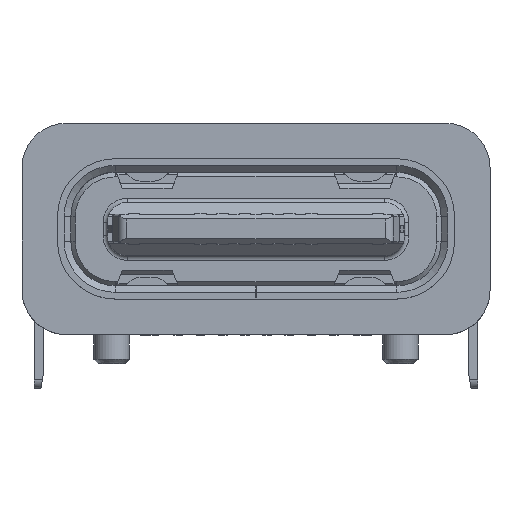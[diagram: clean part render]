
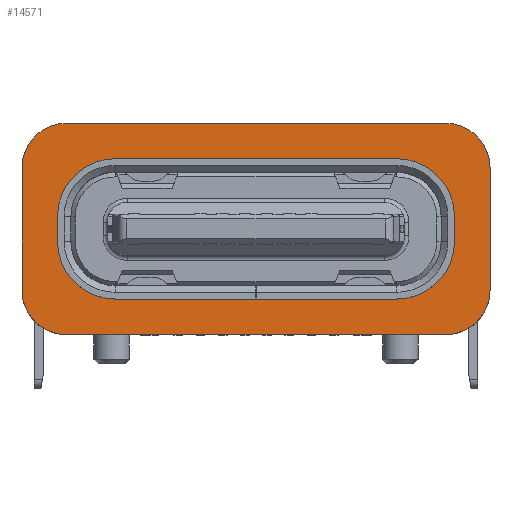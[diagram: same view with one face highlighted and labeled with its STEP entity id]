
A CAD part, top view. The second image highlights one B-rep face of the part: STEP entity #14571.
In plain terms, the highlighted planar face has unit normal (0, 0, 1).
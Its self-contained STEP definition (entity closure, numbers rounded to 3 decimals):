
#2741=DIRECTION('',(0.,-1.,0.));
#2742=VECTOR('',#2741,2.76);
#2743=CARTESIAN_POINT('',(-5.27,1.38,3.3));
#2744=LINE('',#2743,#2742);
#2745=CARTESIAN_POINT('',(-4.27,1.38,3.3));
#2746=DIRECTION('',(0.,0.,1.));
#2747=DIRECTION('',(0.,1.,0.));
#2748=AXIS2_PLACEMENT_3D('',#2745,#2746,#2747);
#2750=DIRECTION('',(-1.,0.,0.));
#2751=VECTOR('',#2750,8.54);
#2752=CARTESIAN_POINT('',(4.27,2.38,3.3));
#2753=LINE('',#2752,#2751);
#2754=CARTESIAN_POINT('',(4.27,1.38,3.3));
#2755=DIRECTION('',(0.,0.,1.));
#2756=DIRECTION('',(1.,0.,0.));
#2757=AXIS2_PLACEMENT_3D('',#2754,#2755,#2756);
#2759=DIRECTION('',(0.,1.,0.));
#2760=VECTOR('',#2759,2.76);
#2761=CARTESIAN_POINT('',(5.27,-1.38,3.3));
#2762=LINE('',#2761,#2760);
#2763=CARTESIAN_POINT('',(4.27,-1.38,3.3));
#2764=DIRECTION('',(0.,0.,1.));
#2765=DIRECTION('',(0.,-1.,0.));
#2766=AXIS2_PLACEMENT_3D('',#2763,#2764,#2765);
#2768=CARTESIAN_POINT('',(-4.27,-1.38,3.3));
#2769=DIRECTION('',(0.,0.,1.));
#2770=DIRECTION('',(-1.,0.,0.));
#2771=AXIS2_PLACEMENT_3D('',#2768,#2769,#2770);
#2773=CARTESIAN_POINT('',(3.17,-0.28,3.3));
#2774=DIRECTION('',(0.,0.,-1.));
#2775=DIRECTION('',(1.,0.,0.));
#2776=AXIS2_PLACEMENT_3D('',#2773,#2774,#2775);
#2778=CARTESIAN_POINT('',(3.17,0.28,3.3));
#2779=DIRECTION('',(0.,0.,-1.));
#2780=DIRECTION('',(0.,1.,0.));
#2781=AXIS2_PLACEMENT_3D('',#2778,#2779,#2780);
#2783=CARTESIAN_POINT('',(-3.17,0.28,3.3));
#2784=DIRECTION('',(0.,0.,-1.));
#2785=DIRECTION('',(-1.,0.,0.));
#2786=AXIS2_PLACEMENT_3D('',#2783,#2784,#2785);
#2788=CARTESIAN_POINT('',(-3.17,-0.28,3.3));
#2789=DIRECTION('',(0.,0.,-1.));
#2790=DIRECTION('',(0.,-1.,0.));
#2791=AXIS2_PLACEMENT_3D('',#2788,#2789,#2790);
#2797=DIRECTION('',(1.,0.,0.));
#2798=VECTOR('',#2797,8.54);
#2799=CARTESIAN_POINT('',(-4.27,-2.38,3.3));
#2800=LINE('',#2799,#2798);
#2885=DIRECTION('',(1.,0.,0.));
#2886=VECTOR('',#2885,0.01);
#2887=CARTESIAN_POINT('',(0.595,-1.58,3.3));
#2888=LINE('',#2887,#2886);
#2893=DIRECTION('',(-1.,0.,0.));
#2894=VECTOR('',#2893,3.765);
#2895=CARTESIAN_POINT('',(0.595,-1.58,3.3));
#2896=LINE('',#2895,#2894);
#2923=DIRECTION('',(0.,1.,0.));
#2924=VECTOR('',#2923,0.56);
#2925=CARTESIAN_POINT('',(-4.47,-0.28,3.3));
#2926=LINE('',#2925,#2924);
#2935=DIRECTION('',(-1.,0.,0.));
#2936=VECTOR('',#2935,6.34);
#2937=CARTESIAN_POINT('',(3.17,1.58,3.3));
#2938=LINE('',#2937,#2936);
#2947=DIRECTION('',(0.,1.,0.));
#2948=VECTOR('',#2947,0.56);
#2949=CARTESIAN_POINT('',(4.47,-0.28,3.3));
#2950=LINE('',#2949,#2948);
#2959=DIRECTION('',(-1.,0.,0.));
#2960=VECTOR('',#2959,2.565);
#2961=CARTESIAN_POINT('',(3.17,-1.58,3.3));
#2962=LINE('',#2961,#2960);
#9201=CARTESIAN_POINT('',(4.27,-2.38,3.3));
#9202=VERTEX_POINT('',#9201);
#9203=CARTESIAN_POINT('',(5.27,-1.38,3.3));
#9204=VERTEX_POINT('',#9203);
#9207=CARTESIAN_POINT('',(-5.27,-1.38,3.3));
#9208=VERTEX_POINT('',#9207);
#9209=CARTESIAN_POINT('',(-4.27,-2.38,3.3));
#9210=VERTEX_POINT('',#9209);
#9211=CARTESIAN_POINT('',(-5.27,1.38,3.3));
#9212=VERTEX_POINT('',#9211);
#9213=CARTESIAN_POINT('',(-4.27,2.38,3.3));
#9214=VERTEX_POINT('',#9213);
#9215=CARTESIAN_POINT('',(4.27,2.38,3.3));
#9216=VERTEX_POINT('',#9215);
#9217=CARTESIAN_POINT('',(5.27,1.38,3.3));
#9218=VERTEX_POINT('',#9217);
#9219=CARTESIAN_POINT('',(0.595,-1.58,3.3));
#9220=CARTESIAN_POINT('',(0.605,-1.58,3.3));
#9221=VERTEX_POINT('',#9219);
#9222=VERTEX_POINT('',#9220);
#9223=CARTESIAN_POINT('',(3.17,-1.58,3.3));
#9224=VERTEX_POINT('',#9223);
#9225=CARTESIAN_POINT('',(4.47,-0.28,3.3));
#9226=VERTEX_POINT('',#9225);
#9227=CARTESIAN_POINT('',(4.47,0.28,3.3));
#9228=VERTEX_POINT('',#9227);
#9229=CARTESIAN_POINT('',(3.17,1.58,3.3));
#9230=VERTEX_POINT('',#9229);
#9231=CARTESIAN_POINT('',(-3.17,1.58,3.3));
#9232=VERTEX_POINT('',#9231);
#9233=CARTESIAN_POINT('',(-4.47,0.28,3.3));
#9234=VERTEX_POINT('',#9233);
#9235=CARTESIAN_POINT('',(-4.47,-0.28,3.3));
#9236=VERTEX_POINT('',#9235);
#9237=CARTESIAN_POINT('',(-3.17,-1.58,3.3));
#9238=VERTEX_POINT('',#9237);
#14533=CARTESIAN_POINT('',(0.,0.,3.3));
#14534=DIRECTION('',(0.,0.,1.));
#14535=DIRECTION('',(1.,0.,0.));
#14536=AXIS2_PLACEMENT_3D('',#14533,#14534,#14535);
#14537=PLANE('',#14536);
#14538=ORIENTED_EDGE('',*,*,#14473,.F.);
#14539=ORIENTED_EDGE('',*,*,#14487,.F.);
#14540=ORIENTED_EDGE('',*,*,#14501,.F.);
#14541=ORIENTED_EDGE('',*,*,#14515,.F.);
#14542=ORIENTED_EDGE('',*,*,#14528,.F.);
#14543=ORIENTED_EDGE('',*,*,#14427,.F.);
#14545=ORIENTED_EDGE('',*,*,#14544,.F.);
#14546=ORIENTED_EDGE('',*,*,#14457,.F.);
#14547=EDGE_LOOP('',(#14538,#14539,#14540,#14541,#14542,#14543,#14545,#14546));
#14548=FACE_OUTER_BOUND('',#14547,.F.);
#14550=ORIENTED_EDGE('',*,*,#14549,.T.);
#14552=ORIENTED_EDGE('',*,*,#14551,.F.);
#14554=ORIENTED_EDGE('',*,*,#14553,.F.);
#14556=ORIENTED_EDGE('',*,*,#14555,.T.);
#14558=ORIENTED_EDGE('',*,*,#14557,.F.);
#14560=ORIENTED_EDGE('',*,*,#14559,.T.);
#14562=ORIENTED_EDGE('',*,*,#14561,.F.);
#14564=ORIENTED_EDGE('',*,*,#14563,.F.);
#14566=ORIENTED_EDGE('',*,*,#14565,.F.);
#14568=ORIENTED_EDGE('',*,*,#14567,.F.);
#14569=EDGE_LOOP('',(#14550,#14552,#14554,#14556,#14558,#14560,#14562,#14564,
#14566,#14568));
#14570=FACE_BOUND('',#14569,.F.);
#14571=ADVANCED_FACE('',(#14548,#14570),#14537,.T.);
#2749=CIRCLE('',#2748,1.);
#2758=CIRCLE('',#2757,1.);
#2767=CIRCLE('',#2766,1.);
#2772=CIRCLE('',#2771,1.);
#2777=CIRCLE('',#2776,1.3);
#2782=CIRCLE('',#2781,1.3);
#2787=CIRCLE('',#2786,1.3);
#2792=CIRCLE('',#2791,1.3);
#14427=EDGE_CURVE('',#9202,#9204,#2767,.T.);
#14457=EDGE_CURVE('',#9208,#9210,#2772,.T.);
#14473=EDGE_CURVE('',#9212,#9208,#2744,.T.);
#14487=EDGE_CURVE('',#9214,#9212,#2749,.T.);
#14501=EDGE_CURVE('',#9216,#9214,#2753,.T.);
#14515=EDGE_CURVE('',#9218,#9216,#2758,.T.);
#14528=EDGE_CURVE('',#9204,#9218,#2762,.T.);
#14544=EDGE_CURVE('',#9210,#9202,#2800,.T.);
#14549=EDGE_CURVE('',#9221,#9222,#2888,.T.);
#14551=EDGE_CURVE('',#9224,#9222,#2962,.T.);
#14553=EDGE_CURVE('',#9226,#9224,#2777,.T.);
#14555=EDGE_CURVE('',#9226,#9228,#2950,.T.);
#14557=EDGE_CURVE('',#9230,#9228,#2782,.T.);
#14559=EDGE_CURVE('',#9230,#9232,#2938,.T.);
#14561=EDGE_CURVE('',#9234,#9232,#2787,.T.);
#14563=EDGE_CURVE('',#9236,#9234,#2926,.T.);
#14565=EDGE_CURVE('',#9238,#9236,#2792,.T.);
#14567=EDGE_CURVE('',#9221,#9238,#2896,.T.);
